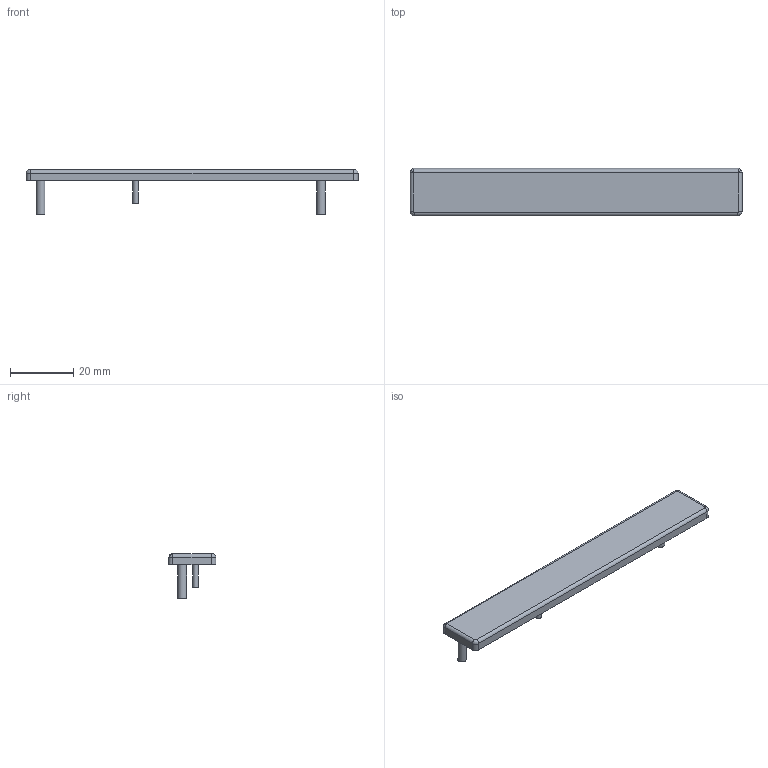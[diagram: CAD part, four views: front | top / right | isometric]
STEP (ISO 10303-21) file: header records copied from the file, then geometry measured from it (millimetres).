
FILE_DESCRIPTION(('Open CASCADE Model'),'2;1');
FILE_NAME('Open CASCADE Shape Model','2026-08-22T19:24:08',('Author'),( 'Open CASCADE'),'Open CASCADE STEP processor 7.9','Open CASCADE 7.9' ,'Unknown');
FILE_SCHEMA(('AUTOMOTIVE_DESIGN { 1 0 10303 214 1 1 1 1 }'));
Length unit declared in the file: millimetre
Products named in the file (1): Open CASCADE STEP translator 7.9 1
Bounding box: 105.2 x 15.2 x 14 mm (x, y, z)
Volume: 5610.6 mm3; surface area: 4117.4 mm2
Topology: 1 solids, 1 shells, 26 faces, 53 edges, 32 vertices
Faces by surface type: cylinder 11, plane 9, revolution 4, bspline 2
Full cylindrical faces by diameter (mm): 1.8 x1, 2.8 x2
Entity records: 1802 total; most frequent: CARTESIAN_POINT 728, DIRECTION 193, ORIENTED_EDGE 106, PCURVE 106, DEFINITIONAL_REPRESENTATION 106, LINE 85, VECTOR 85, EDGE_CURVE 53
